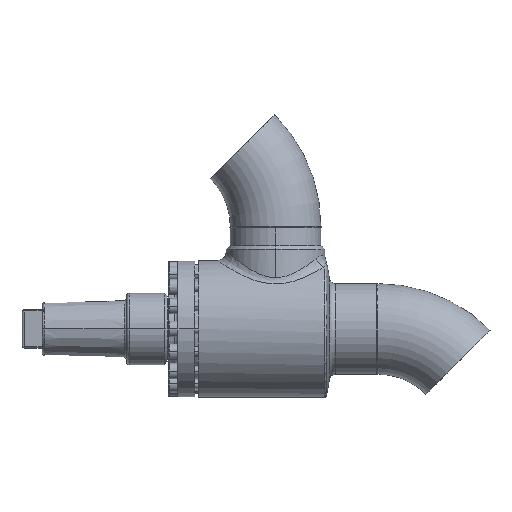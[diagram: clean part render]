
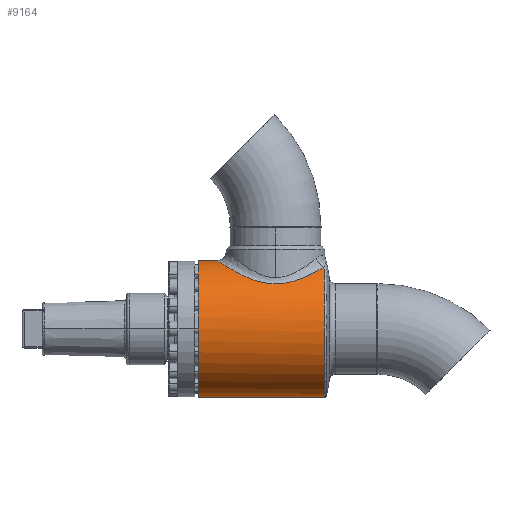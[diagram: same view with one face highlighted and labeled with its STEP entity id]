
A CAD part, left-side view. The second image highlights one B-rep face of the part: STEP entity #9164.
In plain terms, the highlighted cylindrical face has radius 57.5 mm (diameter 115 mm), a partial arc.
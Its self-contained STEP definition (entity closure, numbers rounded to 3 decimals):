
#1745 = VERTEX_POINT ( 'NONE', #12553 ) ;
#1886 = EDGE_CURVE ( 'NONE', #1745, #2157, #12631, .T. ) ;
#2157 = VERTEX_POINT ( 'NONE', #12748 ) ;
#3530 = EDGE_CURVE ( 'NONE', #6455, #2157, #13891, .T. ) ;
#3895 = ORIENTED_EDGE ( 'NONE', *, *, #3530, .F. ) ;
#4395 = ORIENTED_EDGE ( 'NONE', *, *, #1886, .T. ) ;
#4892 = EDGE_CURVE ( 'NONE', #7337, #1745, #15341, .T. ) ;
#6107 = VERTEX_POINT ( 'NONE', #9620 ) ;
#6455 = VERTEX_POINT ( 'NONE', #9851 ) ;
#6688 = EDGE_CURVE ( 'NONE', #6107, #6455, #9963, .T. ) ;
#6835 = ORIENTED_EDGE ( 'NONE', *, *, #4892, .T. ) ;
#7337 = VERTEX_POINT ( 'NONE', #10488 ) ;
#7561 = EDGE_CURVE ( 'NONE', #6107, #7337, #10713, .T. ) ;
#7921 = ORIENTED_EDGE ( 'NONE', *, *, #7561, .T. ) ;
#8427 = ORIENTED_EDGE ( 'NONE', *, *, #6688, .F. ) ;
#8929 = EDGE_LOOP ( 'NONE', ( #8427, #7921, #6835, #4395, #3895 ) ) ;
#9164 = ADVANCED_FACE ( 'NONE', ( #15222 ), #15223, .T. ) ;
#9620 = CARTESIAN_POINT ( 'NONE',  ( 0., -105.892, -57.5 ) ) ;
#9851 = CARTESIAN_POINT ( 'NONE',  ( 0., 0., -57.5 ) ) ;
#9963 = LINE ( 'NONE', #9964, #9965 ) ;
#9964 = CARTESIAN_POINT ( 'NONE',  ( 0., -111., -57.5 ) ) ;
#9965 = VECTOR ( 'NONE', #9966, 1000. ) ;
#9966 = DIRECTION ( 'NONE',  ( 0., 1., 0. ) ) ;
#10488 = CARTESIAN_POINT ( 'NONE',  ( -24.174, -105.892, 52.171 ) ) ;
#10713 = CIRCLE ( 'NONE', #10714, 57.5 ) ;
#10714 = AXIS2_PLACEMENT_3D ( 'NONE', #10715, #10716, #10717 ) ;
#10715 = CARTESIAN_POINT ( 'NONE',  ( 0., -105.892, 0. ) ) ;
#10716 = DIRECTION ( 'NONE',  ( 0., 1., 0. ) ) ;
#10717 = DIRECTION ( 'NONE',  ( 0., 0., -1. ) ) ;
#12553 = CARTESIAN_POINT ( 'NONE',  ( 0., -15.7, 57.5 ) ) ;
#12631 = LINE ( 'NONE', #12632, #12633 ) ;
#12632 = CARTESIAN_POINT ( 'NONE',  ( 0., -111., 57.5 ) ) ;
#12633 = VECTOR ( 'NONE', #12634, 1000. ) ;
#12634 = DIRECTION ( 'NONE',  ( 0., 1., 0. ) ) ;
#12748 = CARTESIAN_POINT ( 'NONE',  ( 0., 0., 57.5 ) ) ;
#13891 = CIRCLE ( 'NONE', #13892, 57.5 ) ;
#13892 = AXIS2_PLACEMENT_3D ( 'NONE', #13893, #13894, #13895 ) ;
#13893 = CARTESIAN_POINT ( 'NONE',  ( 0., 0., 0. ) ) ;
#13894 = DIRECTION ( 'NONE',  ( 0., 1., 0. ) ) ;
#13895 = DIRECTION ( 'NONE',  ( 0., 0., 1. ) ) ;
#15222 = FACE_OUTER_BOUND ( 'NONE', #8929, .T. ) ;
#15223 = CYLINDRICAL_SURFACE ( 'NONE', #15224, 57.5 ) ;
#15224 = AXIS2_PLACEMENT_3D ( 'NONE', #15225, #15226, #15227 ) ;
#15225 = CARTESIAN_POINT ( 'NONE',  ( 0., -111., 0. ) ) ;
#15226 = DIRECTION ( 'NONE',  ( 0., 1., 0. ) ) ;
#15227 = DIRECTION ( 'NONE',  ( 0., 0., 1. ) ) ;
#15341 = B_SPLINE_CURVE_WITH_KNOTS ( 'NONE', 3,
 ( #15342, #15343, #15344, #15345, #15346, #15347, #15348, #15349, #15350, #15353, #15354, #15355, #15356, #15357, #15358, #15359, #15360, #15361, #15362, #15363, #15364, #15365, #15366, #15367, #15368, #15370, #15371, #15372, #15373, #15374, #15375, #15376, #15377, #15378, #15379, #15380, #15381, #15382, #15383, #15384, #15385, #15389, #15390, #15391, #15392, #15393, #15394, #15395, #15396, #15397, #15398, #15399, #15400, #15401, #15402, #15403, #15404, #15409, #15410, #15411, #15412, #15413 ),
 .UNSPECIFIED., .F., .F.,
 ( 4, 2, 2, 2, 2, 2, 2, 2, 2, 2, 2, 2, 2, 2, 2, 2, 2, 2, 2, 2, 2, 2, 2, 2, 2, 2, 2, 2, 2, 2, 4 ),
 ( 0., 0.008, 0.016, 0.017, 0.019, 0.023, 0.031, 0.035, 0.039, 0.047, 0.049, 0.05, 0.054, 0.058, 0.06, 0.062, 0.07, 0.074, 0.078, 0.085, 0.089, 0.091, 0.093, 0.101, 0.105, 0.107, 0.109, 0.116, 0.118, 0.12, 0.124 ),
 .UNSPECIFIED. ) ;
#15342 = CARTESIAN_POINT ( 'NONE',  ( -24.174, -105.892, 52.171 ) ) ;
#15343 = CARTESIAN_POINT ( 'NONE',  ( -26.132, -104.39, 51.264 ) ) ;
#15344 = CARTESIAN_POINT ( 'NONE',  ( -27.915, -102.76, 50.305 ) ) ;
#15345 = CARTESIAN_POINT ( 'NONE',  ( -31.195, -99.268, 48.34 ) ) ;
#15346 = CARTESIAN_POINT ( 'NONE',  ( -32.691, -97.405, 47.333 ) ) ;
#15347 = CARTESIAN_POINT ( 'NONE',  ( -34.397, -94.927, 46.079 ) ) ;
#15348 = CARTESIAN_POINT ( 'NONE',  ( -34.73, -94.424, 45.829 ) ) ;
#15349 = CARTESIAN_POINT ( 'NONE',  ( -35.379, -93.402, 45.329 ) ) ;
#15350 = CARTESIAN_POINT ( 'NONE',  ( -35.695, -92.884, 45.08 ) ) ;
#15353 = CARTESIAN_POINT ( 'NONE',  ( -36.613, -91.317, 44.344 ) ) ;
#15354 = CARTESIAN_POINT ( 'NONE',  ( -37.186, -90.253, 43.863 ) ) ;
#15355 = CARTESIAN_POINT ( 'NONE',  ( -38.793, -86.998, 42.466 ) ) ;
#15356 = CARTESIAN_POINT ( 'NONE',  ( -39.716, -84.747, 41.594 ) ) ;
#15357 = CARTESIAN_POINT ( 'NONE',  ( -40.882, -81.225, 40.437 ) ) ;
#15358 = CARTESIAN_POINT ( 'NONE',  ( -41.234, -80.027, 40.077 ) ) ;
#15359 = CARTESIAN_POINT ( 'NONE',  ( -41.862, -77.576, 39.421 ) ) ;
#15360 = CARTESIAN_POINT ( 'NONE',  ( -42.138, -76.319, 39.125 ) ) ;
#15361 = CARTESIAN_POINT ( 'NONE',  ( -42.831, -72.529, 38.37 ) ) ;
#15362 = CARTESIAN_POINT ( 'NONE',  ( -43.12, -69.961, 38.038 ) ) ;
#15363 = CARTESIAN_POINT ( 'NONE',  ( -43.257, -66.692, 37.883 ) ) ;
#15364 = CARTESIAN_POINT ( 'NONE',  ( -43.273, -66.034, 37.864 ) ) ;
#15365 = CARTESIAN_POINT ( 'NONE',  ( -43.282, -64.718, 37.854 ) ) ;
#15366 = CARTESIAN_POINT ( 'NONE',  ( -43.275, -64.063, 37.862 ) ) ;
#15367 = CARTESIAN_POINT ( 'NONE',  ( -43.219, -62.103, 37.926 ) ) ;
#15368 = CARTESIAN_POINT ( 'NONE',  ( -43.137, -60.806, 38.02 ) ) ;
#15370 = CARTESIAN_POINT ( 'NONE',  ( -42.884, -58.229, 38.305 ) ) ;
#15371 = CARTESIAN_POINT ( 'NONE',  ( -42.713, -56.95, 38.496 ) ) ;
#15372 = CARTESIAN_POINT ( 'NONE',  ( -42.391, -55.043, 38.85 ) ) ;
#15373 = CARTESIAN_POINT ( 'NONE',  ( -42.272, -54.408, 38.979 ) ) ;
#15374 = CARTESIAN_POINT ( 'NONE',  ( -42.014, -53.15, 39.257 ) ) ;
#15375 = CARTESIAN_POINT ( 'NONE',  ( -41.875, -52.528, 39.406 ) ) ;
#15376 = CARTESIAN_POINT ( 'NONE',  ( -41.13, -49.446, 40.191 ) ) ;
#15377 = CARTESIAN_POINT ( 'NONE',  ( -40.378, -47.077, 40.957 ) ) ;
#15378 = CARTESIAN_POINT ( 'NONE',  ( -39.022, -43.642, 42.237 ) ) ;
#15379 = CARTESIAN_POINT ( 'NONE',  ( -38.532, -42.517, 42.685 ) ) ;
#15380 = CARTESIAN_POINT ( 'NONE',  ( -37.473, -40.304, 43.618 ) ) ;
#15381 = CARTESIAN_POINT ( 'NONE',  ( -36.908, -39.223, 44.098 ) ) ;
#15382 = CARTESIAN_POINT ( 'NONE',  ( -35.115, -36.073, 45.559 ) ) ;
#15383 = CARTESIAN_POINT ( 'NONE',  ( -33.785, -34.085, 46.562 ) ) ;
#15384 = CARTESIAN_POINT ( 'NONE',  ( -31.574, -31.259, 48.064 ) ) ;
#15385 = CARTESIAN_POINT ( 'NONE',  ( -30.801, -30.343, 48.564 ) ) ;
#15389 = CARTESIAN_POINT ( 'NONE',  ( -29.582, -29.009, 49.309 ) ) ;
#15390 = CARTESIAN_POINT ( 'NONE',  ( -29.166, -28.57, 49.557 ) ) ;
#15391 = CARTESIAN_POINT ( 'NONE',  ( -28.313, -27.708, 50.049 ) ) ;
#15392 = CARTESIAN_POINT ( 'NONE',  ( -27.875, -27.282, 50.294 ) ) ;
#15393 = CARTESIAN_POINT ( 'NONE',  ( -25.646, -25.201, 51.504 ) ) ;
#15394 = CARTESIAN_POINT ( 'NONE',  ( -23.737, -23.688, 52.419 ) ) ;
#15395 = CARTESIAN_POINT ( 'NONE',  ( -20.66, -21.659, 53.671 ) ) ;
#15396 = CARTESIAN_POINT ( 'NONE',  ( -19.599, -21.023, 54.069 ) ) ;
#15397 = CARTESIAN_POINT ( 'NONE',  ( -17.948, -20.134, 54.63 ) ) ;
#15398 = CARTESIAN_POINT ( 'NONE',  ( -17.388, -19.848, 54.811 ) ) ;
#15399 = CARTESIAN_POINT ( 'NONE',  ( -16.247, -19.3, 55.16 ) ) ;
#15400 = CARTESIAN_POINT ( 'NONE',  ( -15.665, -19.037, 55.328 ) ) ;
#15401 = CARTESIAN_POINT ( 'NONE',  ( -12.734, -17.796, 56.125 ) ) ;
#15402 = CARTESIAN_POINT ( 'NONE',  ( -10.302, -17.028, 56.627 ) ) ;
#15403 = CARTESIAN_POINT ( 'NONE',  ( -7.142, -16.371, 57.058 ) ) ;
#15404 = CARTESIAN_POINT ( 'NONE',  ( -6.505, -16.254, 57.135 ) ) ;
#15409 = CARTESIAN_POINT ( 'NONE',  ( -5.216, -16.054, 57.267 ) ) ;
#15410 = CARTESIAN_POINT ( 'NONE',  ( -4.563, -15.969, 57.322 ) ) ;
#15411 = CARTESIAN_POINT ( 'NONE',  ( -2.602, -15.766, 57.456 ) ) ;
#15412 = CARTESIAN_POINT ( 'NONE',  ( -1.298, -15.7, 57.5 ) ) ;
#15413 = CARTESIAN_POINT ( 'NONE',  ( 0., -15.7, 57.5 ) ) ;
